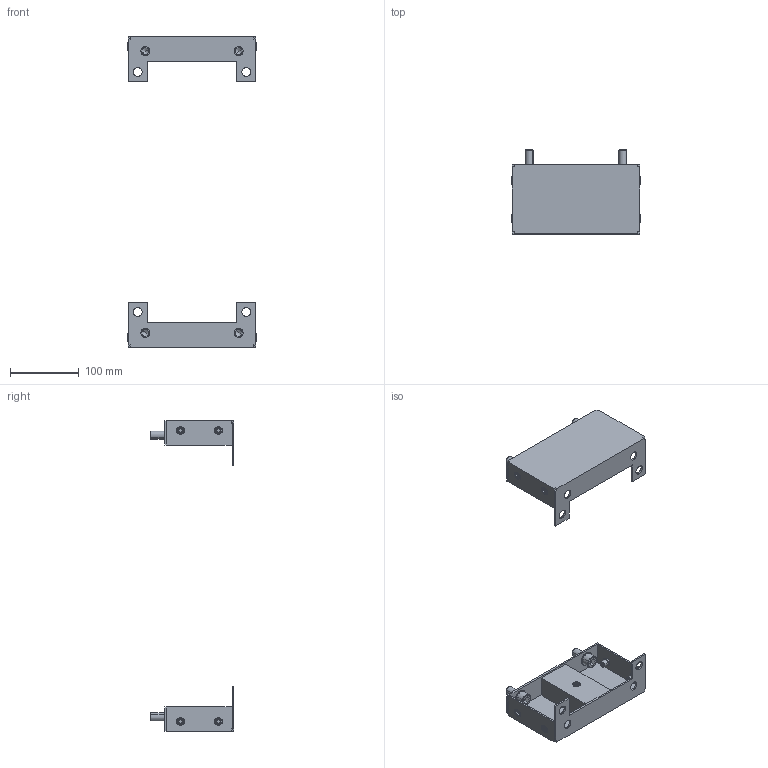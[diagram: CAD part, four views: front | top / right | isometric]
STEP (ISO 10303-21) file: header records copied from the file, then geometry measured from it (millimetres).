
FILE_DESCRIPTION (( 'STEP AP203' ), '1' );
FILE_NAME ('R6PLB25 H=450.STEP', '2025-05-16T11:37:13', ( '' ), ( '' ), 'SwSTEP 2.0', 'SolidWorks 2022', '' );
FILE_SCHEMA (( 'CONFIG_CONTROL_DESIGN' ));
Length unit declared in the file: millimetre
Products named in the file (7): RB.3309.00.00.0 СБ simple; M6 MGS-MPO-0635_straight; RB.3309.00.02.0 simple; M12x25 DIN 912 HX cl.8,8 Zinc_stright; R6PLB25 H=450; 12 DIN 6798 A Zinc; RB.3309.00.01.0 simple
Assembly tree (17 placements, depth 3):
  R6PLB25 H=450
    RB.3309.00.00.0 СБ simple  x2
      RB.3309.00.01.0 simple
      M6 MGS-MPO-0635_straight
      RB.3309.00.02.0 simple
    12 DIN 6798 A Zinc  x4
    M12x25 DIN 912 HX cl.8,8 Zinc_stright  x4
Bounding box: 186.7 x 121.5 x 450 mm (x, y, z)
Volume: 261997.6 mm3; surface area: 216610.9 mm2
Topology: 22 solids, 22 shells, 1220 faces, 3192 edges, 1808 vertices
Faces by surface type: plane 548, cylinder 356, bspline 144, sphere 120, cone 36, torus 16
Entity records: 10115 total; most frequent: CARTESIAN_POINT 2745, ORIENTED_EDGE 1384, DIRECTION 1192, EDGE_CURVE 692, VECTOR 444, LINE 444, VERTEX_POINT 443, AXIS2_PLACEMENT_3D 374
